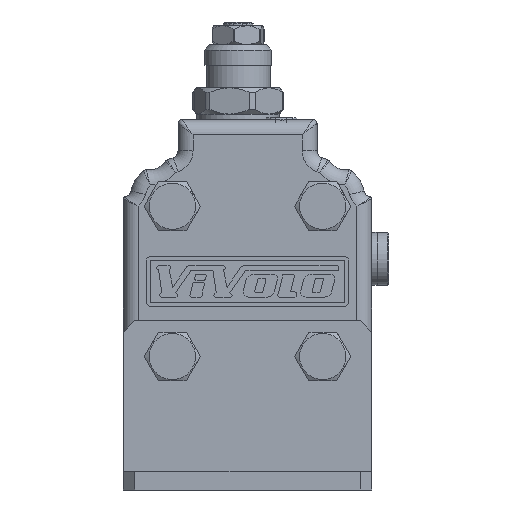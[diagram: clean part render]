
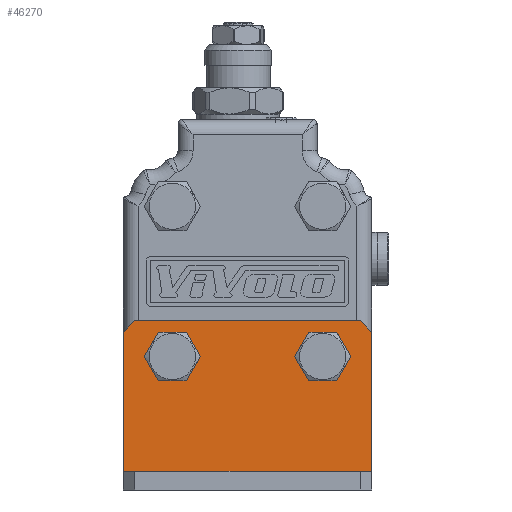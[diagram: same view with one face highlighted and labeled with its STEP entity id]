
A CAD part, front view. The second image highlights one B-rep face of the part: STEP entity #46270.
In plain terms, the highlighted planar face has unit normal (0, -1, 0).
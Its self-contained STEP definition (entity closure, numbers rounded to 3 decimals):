
#1843=CIRCLE('',#48335,6.);
#1844=CIRCLE('',#48337,6.);
#5028=ORIENTED_EDGE('',*,*,#14106,.T.);
#5029=ORIENTED_EDGE('',*,*,#14105,.T.);
#5030=ORIENTED_EDGE('',*,*,#14254,.F.);
#5031=ORIENTED_EDGE('',*,*,#14212,.T.);
#5032=ORIENTED_EDGE('',*,*,#14255,.F.);
#5033=ORIENTED_EDGE('',*,*,#14256,.F.);
#5034=ORIENTED_EDGE('',*,*,#14257,.F.);
#5035=ORIENTED_EDGE('',*,*,#14258,.F.);
#14105=EDGE_CURVE('',#18865,#18865,#1843,.T.);
#14106=EDGE_CURVE('',#18866,#18866,#1844,.T.);
#14212=EDGE_CURVE('',#18932,#18933,#22201,.T.);
#14254=EDGE_CURVE('',#18932,#18961,#22220,.T.);
#14255=EDGE_CURVE('',#18962,#18933,#22221,.T.);
#14256=EDGE_CURVE('',#18963,#18962,#22222,.T.);
#14257=EDGE_CURVE('',#18964,#18963,#22223,.T.);
#14258=EDGE_CURVE('',#18961,#18964,#22224,.T.);
#18865=VERTEX_POINT('',#65249);
#18866=VERTEX_POINT('',#65252);
#18932=VERTEX_POINT('',#65858);
#18933=VERTEX_POINT('',#65859);
#18961=VERTEX_POINT('',#66340);
#18962=VERTEX_POINT('',#66342);
#18963=VERTEX_POINT('',#66344);
#18964=VERTEX_POINT('',#66346);
#22201=LINE('',#65857,#24774);
#22220=LINE('',#66339,#24793);
#22221=LINE('',#66341,#24794);
#22222=LINE('',#66343,#24795);
#22223=LINE('',#66345,#24796);
#22224=LINE('',#66347,#24797);
#24774=VECTOR('',#53181,1000.);
#24793=VECTOR('',#53252,1000.);
#24794=VECTOR('',#53253,1000.);
#24795=VECTOR('',#53254,1000.);
#24796=VECTOR('',#53255,1000.);
#24797=VECTOR('',#53256,1000.);
#27221=EDGE_LOOP('',(#5028));
#27222=EDGE_LOOP('',(#5029));
#27223=EDGE_LOOP('',(#5030,#5031,#5032,#5033,#5034,#5035));
#29486=FACE_BOUND('',#27221,.T.);
#29487=FACE_BOUND('',#27222,.T.);
#29488=FACE_BOUND('',#27223,.T.);
#31605=PLANE('',#48427);
#46270=ADVANCED_FACE('',(#29486,#29487,#29488),#31605,.F.);
#48335=AXIS2_PLACEMENT_3D('',#65248,#52974,#52975);
#48337=AXIS2_PLACEMENT_3D('',#65251,#52978,#52979);
#48427=AXIS2_PLACEMENT_3D('',#66338,#53250,#53251);
#52974=DIRECTION('',(0.,1.,0.));
#52975=DIRECTION('',(1.,0.,0.));
#52978=DIRECTION('',(0.,1.,0.));
#52979=DIRECTION('',(1.,0.,0.));
#53181=DIRECTION('',(1.,0.,0.));
#53250=DIRECTION('',(0.,1.,0.));
#53251=DIRECTION('',(0.,0.,1.));
#53252=DIRECTION('',(0.,0.,1.));
#53253=DIRECTION('',(0.,0.,-1.));
#53254=DIRECTION('',(0.707,0.,-0.707));
#53255=DIRECTION('',(1.,0.,0.));
#53256=DIRECTION('',(0.707,0.,0.707));
#65248=CARTESIAN_POINT('',(20.,-5.,-20.));
#65249=CARTESIAN_POINT('',(26.,-5.,-20.));
#65251=CARTESIAN_POINT('',(-20.,-5.,-20.));
#65252=CARTESIAN_POINT('',(-14.,-5.,-20.));
#65857=CARTESIAN_POINT('',(33.,-5.,-50.5));
#65858=CARTESIAN_POINT('',(-33.,-5.,-50.5));
#65859=CARTESIAN_POINT('',(33.,-5.,-50.5));
#66338=CARTESIAN_POINT('',(33.,-5.,-55.5));
#66339=CARTESIAN_POINT('',(-33.,-5.,-55.5));
#66340=CARTESIAN_POINT('',(-33.,-5.,-13.5));
#66341=CARTESIAN_POINT('',(33.,-5.,-13.5));
#66342=CARTESIAN_POINT('',(33.,-5.,-13.5));
#66343=CARTESIAN_POINT('',(30.,-5.,-10.5));
#66344=CARTESIAN_POINT('',(30.,-5.,-10.5));
#66345=CARTESIAN_POINT('',(30.,-5.,-10.5));
#66346=CARTESIAN_POINT('',(-30.,-5.,-10.5));
#66347=CARTESIAN_POINT('',(-33.,-5.,-13.5));
